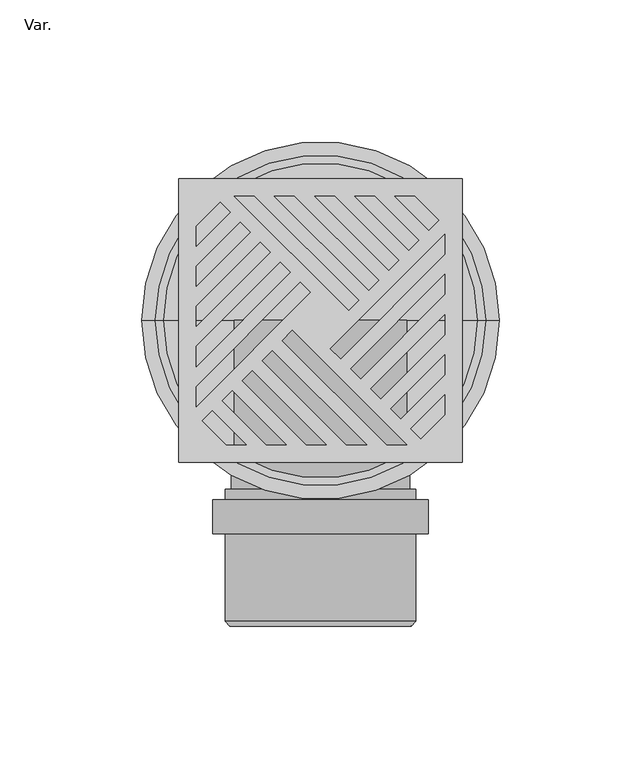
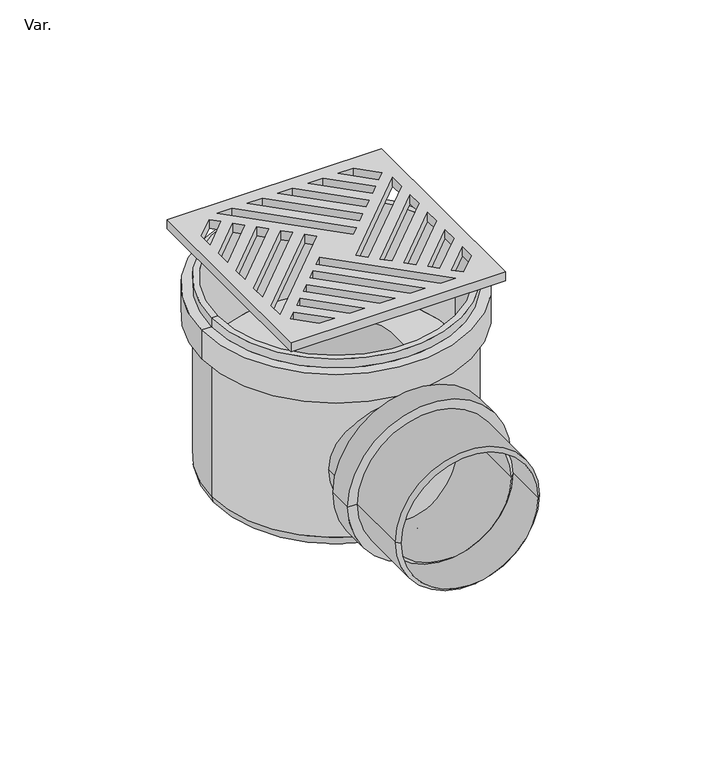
"""IFC4 building model written with IfcOpenShell, lengths in millimetres: pipe fitting geometry, AmancoWavin_Unionesdetubería_SilentiumReceptáculodeBalcón : Var.."""

from ifc_helpers import new_model, si_unit, point, frame, origin, place, context, project, spatial, polyline, circle_curve, ellipse_curve, trimmed, outline, extrude, source, transform, mapped, element, save
from ifc_brep_helpers import plane_surface, cylinder_surface, revolved_surface, advanced_brep


def var_48ab3f22(model_context):
    return source(origin(), model_context, "Body", "SolidModel", [
        advanced_brep(
        [(-38.0, -75.1, -70.0), (38.0, -75.1, -70.0), (33.6, -75.1, -70.0), (-33.6, -75.1, -70.0), (-38.0, -63.1, -70.0), (38.0, -63.1, -70.0), (-33.6, -63.1, -70.0), (33.6, -63.1, -70.0), (-33.6, -59.5, -70.0), (33.6, -59.5, -70.0), (-31.95, -59.5, -70.0), (31.95, -59.5, -70.0), (-31.95, -107.65, -70.0), (31.95, -107.65, -70.0), (-33.6, -106.0, -70.0), (33.6, -106.0, -70.0)],
        [
            (0, 1, circle_curve(frame((0.0, -75.1, -70.0), z_axis=(0.0, -1.0, 0.0), x_axis=(1.0, 0.0, 0.0)), 38.0)),
            (1, 2),
            (2, 3, circle_curve(frame((0.0, -75.1, -70.0), z_axis=(0.0, 1.0, 0.0), x_axis=(1.0, 0.0, 0.0)), 33.6)),
            (3, 0),
            (1, 0, circle_curve(frame((0.0, -75.1, -70.0), z_axis=(0.0, -1.0, 0.0), x_axis=(1.0, 0.0, 0.0)), 38.0)),
            (3, 2, circle_curve(frame((0.0, -75.1, -70.0), z_axis=(0.0, 1.0, 0.0), x_axis=(1.0, 0.0, 0.0)), 33.6)),
            (4, 5, circle_curve(frame((0.0, -63.1, -70.0), z_axis=(0.0, -1.0, 0.0), x_axis=(1.0, 0.0, 0.0)), 38.0)),
            (5, 1),
            (0, 4),
            (5, 4, circle_curve(frame((0.0, -63.1, -70.0), z_axis=(0.0, -1.0, 0.0), x_axis=(1.0, 0.0, 0.0)), 38.0)),
            (6, 7, circle_curve(frame((0.0, -63.1, -70.0), z_axis=(0.0, -1.0, 0.0), x_axis=(1.0, 0.0, 0.0)), 33.6)),
            (7, 5),
            (4, 6),
            (7, 6, circle_curve(frame((0.0, -63.1, -70.0), z_axis=(0.0, -1.0, 0.0), x_axis=(1.0, 0.0, 0.0)), 33.6)),
            (8, 9, circle_curve(frame((0.0, -59.5, -70.0), z_axis=(0.0, -1.0, 0.0), x_axis=(1.0, 0.0, 0.0)), 33.6)),
            (9, 7),
            (6, 8),
            (9, 8, circle_curve(frame((0.0, -59.5, -70.0), z_axis=(0.0, -1.0, 0.0), x_axis=(1.0, 0.0, 0.0)), 33.6)),
            (10, 11, circle_curve(frame((0.0, -59.5, -70.0), z_axis=(0.0, -1.0, 0.0), x_axis=(1.0, 0.0, 0.0)), 31.95)),
            (11, 9),
            (8, 10),
            (11, 10, circle_curve(frame((0.0, -59.5, -70.0), z_axis=(0.0, -1.0, 0.0), x_axis=(1.0, 0.0, 0.0)), 31.95)),
            (12, 13, circle_curve(frame((0.0, -107.65, -70.0), z_axis=(0.0, -1.0, 0.0), x_axis=(1.0, 0.0, 0.0)), 31.95)),
            (13, 11),
            (10, 12),
            (13, 12, circle_curve(frame((0.0, -107.65, -70.0), z_axis=(0.0, -1.0, 0.0), x_axis=(1.0, 0.0, 0.0)), 31.95)),
            (14, 15, circle_curve(frame((0.0, -106.0, -70.0), z_axis=(0.0, -1.0, 0.0), x_axis=(1.0, 0.0, 0.0)), 33.6)),
            (15, 13),
            (12, 14),
            (15, 14, circle_curve(frame((0.0, -106.0, -70.0), z_axis=(0.0, -1.0, 0.0), x_axis=(1.0, 0.0, 0.0)), 33.6)),
            (2, 15),
            (14, 3),
        ],
        [
            plane_surface(frame((0.0, -75.1, -70.0), z_axis=(0.0, -1.0, 0.0), x_axis=(1.0, 0.0, 0.0))),
            cylinder_surface(frame((0.0, -2105.935, -70.0), z_axis=(0.0, 1.0, 0.0), x_axis=(1.0, 0.0, 0.0)), 38.0),
            plane_surface(frame((0.0, -63.1, -70.0), z_axis=(0.0, 1.0, 0.0), x_axis=(1.0, 0.0, 0.0))),
            cylinder_surface(frame((0.0, -2105.935, -70.0), z_axis=(0.0, 1.0, 0.0), x_axis=(1.0, 0.0, 0.0)), 33.6),
            plane_surface(frame((0.0, -59.5, -70.0), z_axis=(0.0, 1.0, 0.0), x_axis=(1.0, 0.0, 0.0))),
            revolved_surface(polyline([(31.95, -59.5, -70.0), (31.95, -107.65000000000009, -70.0)]), (0.0, -2105.935, -70.0), (0.0, 1.0, 0.0)),
            revolved_surface(polyline([(31.95, -107.65, -70.0), (33.6, -106.0, -70.0)]), (0.0, -2105.935, -70.0), (0.0, 1.0, 0.0)),
        ],
        [
            (0, [[1, 2, 3, 4]]),
            (0, [[5, -4, 6, -2]]),
            (1, [[7, 8, -1, 9]]),
            (1, [[10, -9, -5, -8]]),
            (2, [[11, 12, -7, 13]]),
            (2, [[14, -13, -10, -12]]),
            (3, [[15, 16, -11, 17]]),
            (3, [[18, -17, -14, -16]]),
            (4, [[19, 20, -15, 21]]),
            (4, [[22, -21, -18, -20]]),
            (5, [[23, 24, -19, 25]]),
            (5, [[26, -25, -22, -24]]),
            (6, [[27, 28, -23, 29]]),
            (6, [[30, -29, -26, -28]]),
            (3, [[-3, 31, -27, 32]]),
            (3, [[-6, -32, -30, -31]]),
        ],
    ),
        extrude(outline(polyline([(50.0, 50.0), (50.0, -50.0), (-50.0, -50.0), (-50.0, 50.0), (50.0, 50.0)]), holes=[polyline([(-41.7197796, -35.3558186), (-33.2755982, -43.8), (-26.2045303, -43.8), (-38.1842457, -31.8202847), (-41.7197796, -35.3558186)]), polyline([(-34.6487118, -28.2847507), (-19.1334625, -43.8), (-12.0623947, -43.8), (-31.1131779, -24.7492168), (-34.6487118, -28.2847507)]), polyline([(-27.577644, -21.2136829), (-4.9913269, -43.8), (2.0797409, -43.8), (-24.0421101, -17.678149), (-27.577644, -21.2136829)]), polyline([(-20.5065762, -14.1426151), (9.1508087, -43.8), (16.2218765, -43.8), (-16.9710423, -10.6070812), (-20.5065762, -14.1426151)]), polyline([(-13.4355083, -7.0715473), (23.2929443, -43.8), (30.3640122, -43.8), (-9.8999744, -3.5360134), (-13.4355083, -7.0715473)]), polyline([(35.3558186, -41.7197796), (43.8, -33.2755982), (43.8, -26.2045303), (31.8202847, -38.1842457), (35.3558186, -41.7197796)]), polyline([(28.2847507, -34.6487118), (43.8, -19.1334625), (43.8, -12.0623947), (24.7492168, -31.1131779), (28.2847507, -34.6487118)]), polyline([(21.2136829, -27.577644), (43.8, -4.9913269), (43.8, 2.0797409), (17.678149, -24.0421101), (21.2136829, -27.577644)]), polyline([(14.1426151, -20.5065762), (43.8, 9.1508087), (43.8, 16.2218765), (10.6070812, -16.9710423), (14.1426151, -20.5065762)]), polyline([(7.0715473, -13.4355083), (43.8, 23.2929443), (43.8, 30.3640122), (3.5360134, -9.8999744), (7.0715473, -13.4355083)]), polyline([(41.7197796, 35.3558186), (33.2755982, 43.8), (26.2045303, 43.8), (38.1842457, 31.8202847), (41.7197796, 35.3558186)]), polyline([(34.6487118, 28.2847507), (19.1334625, 43.8), (12.0623947, 43.8), (31.1131779, 24.7492168), (34.6487118, 28.2847507)]), polyline([(27.577644, 21.2136829), (4.9913269, 43.8), (-2.0797409, 43.8), (24.0421101, 17.678149), (27.577644, 21.2136829)]), polyline([(20.5065762, 14.1426151), (-9.1508087, 43.8), (-16.2218765, 43.8), (16.9710423, 10.6070812), (20.5065762, 14.1426151)]), polyline([(13.4355083, 7.0715473), (-23.2929443, 43.8), (-30.3640122, 43.8), (9.8999744, 3.5360134), (13.4355083, 7.0715473)]), polyline([(-35.3558186, 41.7197796), (-43.8, 33.2755982), (-43.8, 26.2045303), (-31.8202847, 38.1842457), (-35.3558186, 41.7197796)]), polyline([(-28.2847507, 34.6487118), (-43.8, 19.1334625), (-43.8, 12.0623947), (-24.7492168, 31.1131779), (-28.2847507, 34.6487118)]), polyline([(-21.2136829, 27.577644), (-43.8, 4.9913269), (-43.8, -2.0797409), (-17.678149, 24.0421101), (-21.2136829, 27.577644)]), polyline([(-14.1426151, 20.5065762), (-43.8, -9.1508087), (-43.8, -16.2218765), (-10.6070812, 16.9710423), (-14.1426151, 20.5065762)]), polyline([(-7.0715473, 13.4355083), (-43.8, -23.2929443), (-43.8, -30.3640122), (-3.5360134, 9.8999744), (-7.0715473, 13.4355083)])]), frame((0.0, 0.0, -4.2), z_axis=(0.0, 0.0, 1.0), x_axis=(1.0, 0.0, 0.0)), (0.0, 0.0, 1.0), 4.4),
        advanced_brep(
        [(-31.5, -88.25, -70.0), (31.5, -88.25, -70.0), (29.75, -90.0, -70.0), (-29.75, -90.0, -70.0), (-31.5, 0.0, -70.0), (31.5, 0.0, -70.0), (-29.75, 0.0, -70.0), (29.75, 0.0, -70.0)],
        [
            (0, 1, circle_curve(frame((0.0, -88.25, -70.0), z_axis=(0.0, -1.0, 0.0), x_axis=(1.0, 0.0, 0.0)), 31.5)),
            (1, 2),
            (2, 3, circle_curve(frame((0.0, -90.0, -70.0), z_axis=(0.0, 1.0, 0.0), x_axis=(1.0, 0.0, 0.0)), 29.75)),
            (3, 0),
            (1, 0, circle_curve(frame((0.0, -88.25, -70.0), z_axis=(0.0, -1.0, 0.0), x_axis=(1.0, 0.0, 0.0)), 31.5)),
            (3, 2, circle_curve(frame((0.0, -90.0, -70.0), z_axis=(0.0, 1.0, 0.0), x_axis=(1.0, 0.0, 0.0)), 29.75)),
            (4, 5, circle_curve(frame((0.0, 0.0, -70.0), z_axis=(0.0, -1.0, 0.0), x_axis=(1.0, 0.0, 0.0)), 31.5)),
            (5, 1),
            (0, 4),
            (5, 4, circle_curve(frame((0.0, 0.0, -70.0), z_axis=(0.0, -1.0, 0.0), x_axis=(1.0, 0.0, 0.0)), 31.5)),
            (6, 7, circle_curve(frame((0.0, 0.0, -70.0), z_axis=(0.0, -1.0, 0.0), x_axis=(1.0, 0.0, 0.0)), 29.75)),
            (7, 5),
            (4, 6),
            (7, 6, circle_curve(frame((0.0, 0.0, -70.0), z_axis=(0.0, -1.0, 0.0), x_axis=(1.0, 0.0, 0.0)), 29.75)),
            (2, 7),
            (6, 3),
        ],
        [
            revolved_surface(polyline([(29.75, -90.0, -70.0), (31.5, -88.25, -70.0)]), (0.0, 0.0, -70.0), (0.0, 1.0, 0.0)),
            cylinder_surface(frame((0.0, 0.0, -70.0), z_axis=(0.0, 1.0, 0.0), x_axis=(1.0, 0.0, 0.0)), 31.5),
            plane_surface(frame((0.0, 0.0, -70.0), z_axis=(0.0, 1.0, 0.0), x_axis=(1.0, 0.0, 0.0))),
            revolved_surface(polyline([(29.75, 0.0, -70.0), (29.75, -90.0, -70.0)]), (0.0, 0.0, -70.0), (0.0, 1.0, 0.0)),
        ],
        [
            (0, [[1, 2, 3, 4]]),
            (0, [[5, -4, 6, -2]]),
            (1, [[7, 8, -1, 9]]),
            (1, [[10, -9, -5, -8]]),
            (2, [[11, 12, -7, 13]]),
            (2, [[14, -13, -10, -12]]),
            (3, [[-3, 15, -11, 16]]),
            (3, [[-6, -16, -14, -15]]),
        ],
    ),
        advanced_brep(
        [(55.45, 0.0, -15.0), (-55.45, 0.0, -15.0), (-55.45, 0.0, -61.9660791), (55.45, 0.0, -61.9660791), (58.15, 0.0, -15.0), (-58.15, 0.0, -15.0), (58.15, 0.0, -19.3), (-58.15, 0.0, -19.3), (62.9, 0.0, -19.3), (-62.9, 0.0, -19.3), (62.9, 0.0, -33.5), (-62.9, 0.0, -33.5), (58.15, 0.0, -33.5), (-58.15, 0.0, -33.5), (58.15, 0.0, -103.0), (-58.15, 0.0, -103.0), (52.15, 0.0, -109.0), (-52.15, 0.0, -109.0), (0.0, 0.0, -109.0), (0.0, 0.0, -61.9660791)],
        [
            (0, 1, circle_curve(frame((0.0, 0.0, -15.0), z_axis=(0.0, 0.0, 1.0), x_axis=(-1.0, 0.0, 0.0)), 55.45)),
            (1, 2),
            (2, 3, circle_curve(frame((0.0, 0.0, -61.9660791), z_axis=(0.0, 0.0, -1.0), x_axis=(-1.0, 0.0, 0.0)), 55.45)),
            (3, 0),
            (1, 0, circle_curve(frame((0.0, 0.0, -15.0), z_axis=(0.0, 0.0, 1.0), x_axis=(-1.0, 0.0, 0.0)), 55.45)),
            (3, 2, circle_curve(frame((0.0, 0.0, -61.9660791), z_axis=(0.0, 0.0, -1.0), x_axis=(-1.0, 0.0, 0.0)), 55.45)),
            (4, 5, circle_curve(frame((0.0, 0.0, -15.0), z_axis=(0.0, 0.0, 1.0), x_axis=(-1.0, 0.0, 0.0)), 58.15)),
            (5, 1),
            (0, 4),
            (5, 4, circle_curve(frame((0.0, 0.0, -15.0), z_axis=(0.0, 0.0, 1.0), x_axis=(-1.0, 0.0, 0.0)), 58.15)),
            (6, 7, circle_curve(frame((0.0, 0.0, -19.3), z_axis=(0.0, 0.0, 1.0), x_axis=(-1.0, 0.0, 0.0)), 58.15)),
            (7, 5),
            (4, 6),
            (7, 6, circle_curve(frame((0.0, 0.0, -19.3), z_axis=(0.0, 0.0, 1.0), x_axis=(-1.0, 0.0, 0.0)), 58.15)),
            (8, 9, circle_curve(frame((0.0, 0.0, -19.3), z_axis=(0.0, 0.0, 1.0), x_axis=(-1.0, 0.0, 0.0)), 62.9)),
            (9, 7),
            (6, 8),
            (9, 8, circle_curve(frame((0.0, 0.0, -19.3), z_axis=(0.0, 0.0, 1.0), x_axis=(-1.0, 0.0, 0.0)), 62.9)),
            (10, 11, circle_curve(frame((0.0, 0.0, -33.5), z_axis=(0.0, 0.0, 1.0), x_axis=(-1.0, 0.0, 0.0)), 62.9)),
            (11, 9),
            (8, 10),
            (11, 10, circle_curve(frame((0.0, 0.0, -33.5), z_axis=(0.0, 0.0, 1.0), x_axis=(-1.0, 0.0, 0.0)), 62.9)),
            (12, 13, circle_curve(frame((0.0, 0.0, -33.5), z_axis=(0.0, 0.0, 1.0), x_axis=(-1.0, 0.0, 0.0)), 58.15)),
            (13, 11),
            (10, 12),
            (13, 12, circle_curve(frame((0.0, 0.0, -33.5), z_axis=(0.0, 0.0, 1.0), x_axis=(-1.0, 0.0, 0.0)), 58.15)),
            (14, 15, circle_curve(frame((0.0, 0.0, -103.0), z_axis=(0.0, 0.0, 1.0), x_axis=(-1.0, 0.0, 0.0)), 58.15)),
            (15, 13),
            (12, 14),
            (15, 14, circle_curve(frame((0.0, 0.0, -103.0), z_axis=(0.0, 0.0, 1.0), x_axis=(-1.0, 0.0, 0.0)), 58.15)),
            (16, 17, circle_curve(frame((0.0, 0.0, -109.0), z_axis=(0.0, 0.0, 1.0), x_axis=(-1.0, 0.0, 0.0)), 52.15)),
            (17, 15, circle_curve(frame((-52.15, 0.0, -103.0), z_axis=(0.0, 1.0, 0.0), x_axis=(1.0, 0.0, 0.0)), 6.0)),
            (14, 16, circle_curve(frame((52.15, 0.0, -103.0), z_axis=(0.0, 1.0, 0.0), x_axis=(-1.0, 0.0, 0.0)), 6.0)),
            (17, 16, circle_curve(frame((0.0, 0.0, -109.0), z_axis=(0.0, 0.0, 1.0), x_axis=(-1.0, 0.0, 0.0)), 52.15)),
            (18, 17),
            (16, 18),
            (2, 19),
            (19, 3),
        ],
        [
            revolved_surface(polyline([(-55.45, 0.0, -61.966079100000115), (-55.45, 0.0, -15.0)]), (0.0, 0.0, 2214.3150031), (0.0, 0.0, -1.0)),
            plane_surface(frame((0.0, 0.0, -15.0), z_axis=(0.0, 0.0, 1.0), x_axis=(-1.0, 0.0, 0.0))),
            cylinder_surface(frame((0.0, 0.0, 2214.3150031), z_axis=(0.0, 0.0, -1.0), x_axis=(-1.0, 0.0, 0.0)), 58.15),
            plane_surface(frame((0.0, 0.0, -19.3), z_axis=(0.0, 0.0, 1.0), x_axis=(-1.0, 0.0, 0.0))),
            cylinder_surface(frame((0.0, 0.0, 2214.3150031), z_axis=(0.0, 0.0, -1.0), x_axis=(-1.0, 0.0, 0.0)), 62.9),
            plane_surface(frame((0.0, 0.0, -33.5), z_axis=(0.0, 0.0, -1.0), x_axis=(-1.0, 0.0, 0.0))),
            revolved_surface(trimmed(ellipse_curve(frame((-52.15, 0.0, -103.0), z_axis=(0.0, -1.0, 0.0), x_axis=(1.0, 0.0, 0.0)), 6.0, 6.0), [point((-58.15, 0.0, -103.0))], [point((-52.15, 0.0, -109.0))], True, "CARTESIAN"), (0.0, 0.0, 2214.3150031), (0.0, 0.0, -1.0)),
            plane_surface(frame((0.0, 0.0, -109.0), z_axis=(0.0, 0.0, -1.0), x_axis=(-1.0, 0.0, 0.0))),
            plane_surface(frame((0.0, 0.0, -61.9660791), z_axis=(0.0, 0.0, 1.0), x_axis=(-1.0, 0.0, 0.0))),
        ],
        [
            (0, [[1, 2, 3, 4]]),
            (0, [[5, -4, 6, -2]]),
            (1, [[7, 8, -1, 9]]),
            (1, [[10, -9, -5, -8]]),
            (2, [[11, 12, -7, 13]]),
            (2, [[14, -13, -10, -12]]),
            (3, [[15, 16, -11, 17]]),
            (3, [[18, -17, -14, -16]]),
            (4, [[19, 20, -15, 21]]),
            (4, [[22, -21, -18, -20]]),
            (5, [[23, 24, -19, 25]]),
            (5, [[26, -25, -22, -24]]),
            (2, [[27, 28, -23, 29]]),
            (2, [[30, -29, -26, -28]]),
            (6, [[31, 32, -27, 33]]),
            (6, [[34, -33, -30, -32]]),
            (7, [[35, -31, 36]]),
            (7, [[-36, -34, -35]]),
            (8, [[-3, 37, 38]]),
            (8, [[-6, -38, -37]]),
        ],
    ),
    ])


if __name__ == "__main__":
    model = new_model("IFC4")
    model_context = context("Model", 3, world=origin())
    ifc_project = project(units=[si_unit("LENGTHUNIT", "METRE", prefix="MILLI")], contexts=[model_context])
    site = spatial("IfcSite", under=ifc_project)
    building = spatial("IfcBuilding", under=site)
    placement = place(None, origin())
    var_shape = var_48ab3f22(model_context)
    element("IfcPipeFitting", 1, ObjectType="AmancoWavin_Unionesdetubería_SilentiumReceptáculodeBalcón : Var.", at=placement, inside=building, context=model_context, shape_type="MappedRepresentation", body=[
        mapped(var_shape, transform((0.0, 0.0, 0.0), x_axis=(1.0, 0.0, 0.0), y_axis=(0.0, 1.0, 0.0), z_axis=(0.0, 0.0, 1.0))),
    ])
    save(model, "model.ifc")
